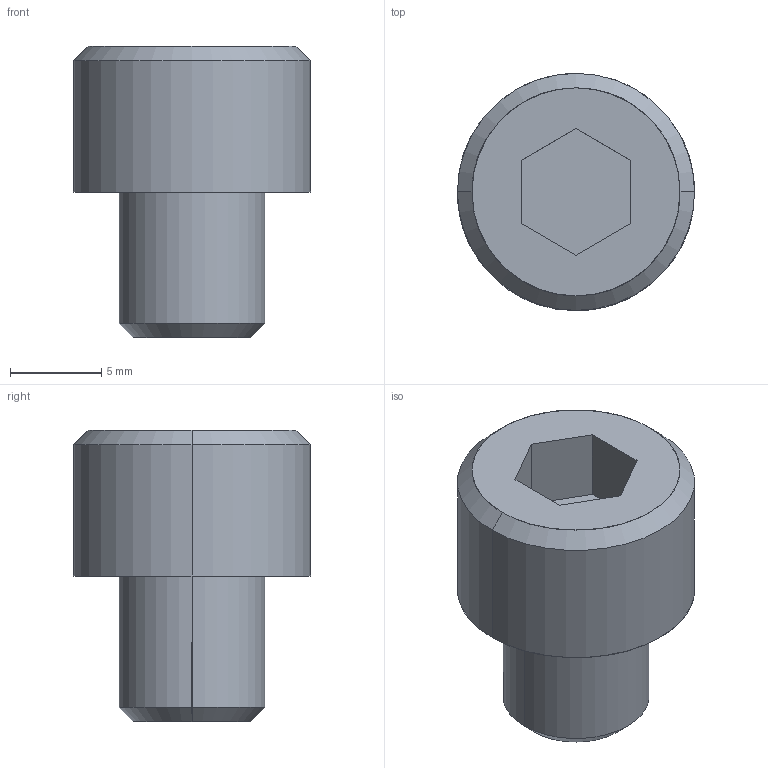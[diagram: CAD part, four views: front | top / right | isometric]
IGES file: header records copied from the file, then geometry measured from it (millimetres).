
Global section: file name: E:\UnigraphicsGraphicData\MISUMI_PRESS-PARTS\IGES\3d_cb8-8_00443_r00.igs; native system: NX V5.0; preprocessor: UGS NX IGES V5.0; author: MISUMI; date: 20110105.160147; units: millimetre
Bounding box: 13 x 13 x 16 mm (x, y, z)
Surface area: 844.5 mm2 (no closed solid volume)
Topology: 0 solids, 0 shells, 18 faces, 100 edges, 100 vertices
Faces by surface type: bspline 18
